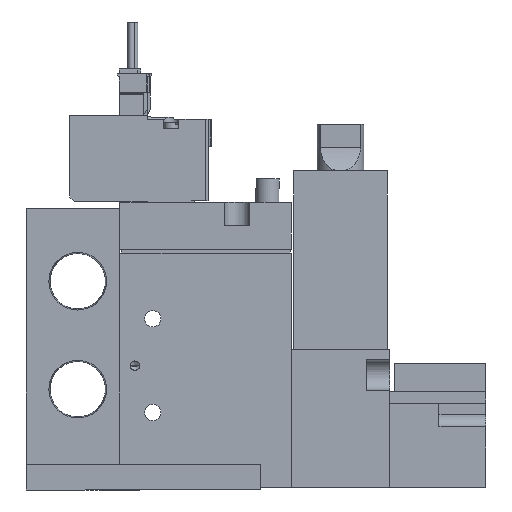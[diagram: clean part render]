
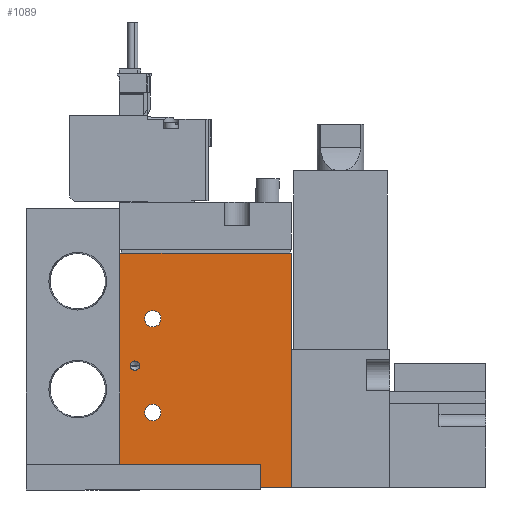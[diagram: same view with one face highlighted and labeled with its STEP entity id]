
A CAD part, left-side view. The second image highlights one B-rep face of the part: STEP entity #1089.
In plain terms, the highlighted planar face has unit normal (-1, 0, 0) as drawn and (1, 0, 0) by its records, which use the part's own axes.
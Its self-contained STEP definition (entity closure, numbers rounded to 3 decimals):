
#1089=ADVANCED_FACE('',(#1712,#1713,#1714,#1715),#1716,.F.);
#1712=FACE_BOUND('',#2669,.T.);
#1713=FACE_BOUND('',#2670,.T.);
#1714=FACE_BOUND('',#2671,.T.);
#1715=FACE_OUTER_BOUND('',#2672,.T.);
#1716=PLANE('',#2673);
#2669=EDGE_LOOP('',(#4142));
#2670=EDGE_LOOP('',(#4143));
#2671=EDGE_LOOP('',(#4144));
#2672=EDGE_LOOP('',(#4145,#4146,#4147,#4148));
#2673=AXIS2_PLACEMENT_3D('',#4149,#4150,#4151);
#4142=ORIENTED_EDGE('',*,*,#6673,.F.);
#4143=ORIENTED_EDGE('',*,*,#6660,.T.);
#4144=ORIENTED_EDGE('',*,*,#6656,.T.);
#4145=ORIENTED_EDGE('',*,*,#6680,.T.);
#4146=ORIENTED_EDGE('',*,*,#6681,.F.);
#4147=ORIENTED_EDGE('',*,*,#6670,.F.);
#4148=ORIENTED_EDGE('',*,*,#6677,.T.);
#4149=CARTESIAN_POINT('',(8.5,-19.444,50.0));
#4150=DIRECTION('',(-1.0,0.0,0.0));
#4151=DIRECTION('',(0.0,0.0,1.0));
#6656=EDGE_CURVE('',#7786,#7786,#7787,.T.);
#6660=EDGE_CURVE('',#7792,#7792,#7793,.T.);
#6670=EDGE_CURVE('',#7810,#7812,#7813,.T.);
#6673=EDGE_CURVE('',#7817,#7817,#7818,.T.);
#6677=EDGE_CURVE('',#7810,#7823,#7825,.T.);
#6680=EDGE_CURVE('',#7823,#7826,#7828,.T.);
#6681=EDGE_CURVE('',#7812,#7826,#7829,.T.);
#7786=VERTEX_POINT('',#9634);
#7787=CIRCLE('',#9635,1.75);
#7792=VERTEX_POINT('',#9640);
#7793=CIRCLE('',#9641,1.75);
#7810=VERTEX_POINT('',#9662);
#7812=VERTEX_POINT('',#9665);
#7813=LINE('',#9666,#9667);
#7817=VERTEX_POINT('',#9672);
#7818=CIRCLE('',#9673,1.0);
#7823=VERTEX_POINT('',#9678);
#7825=LINE('',#9681,#9682);
#7826=VERTEX_POINT('',#9683);
#7828=LINE('',#9686,#9687);
#7829=LINE('',#9688,#9689);
#9634=CARTESIAN_POINT('',(8.5,-10.694,16.0));
#9635=AXIS2_PLACEMENT_3D('',#11865,#11866,#11867);
#9640=CARTESIAN_POINT('',(8.5,-10.694,36.0));
#9641=AXIS2_PLACEMENT_3D('',#11874,#11875,#11876);
#9662=CARTESIAN_POINT('',(8.5,-19.444,50.0));
#9665=CARTESIAN_POINT('',(8.5,17.056,50.0));
#9666=CARTESIAN_POINT('',(8.5,-19.444,50.0));
#9667=VECTOR('',#11894,1.0);
#9672=CARTESIAN_POINT('',(8.5,-17.244,26.0));
#9673=AXIS2_PLACEMENT_3D('',#11899,#11900,#11901);
#9678=CARTESIAN_POINT('',(8.5,-19.444,0.0));
#9681=CARTESIAN_POINT('',(8.5,-19.444,50.0));
#9682=VECTOR('',#11909,1.0);
#9683=CARTESIAN_POINT('',(8.5,17.056,0.0));
#9686=CARTESIAN_POINT('',(8.5,-19.444,0.0));
#9687=VECTOR('',#11911,1.0);
#9688=CARTESIAN_POINT('',(8.5,17.056,50.0));
#9689=VECTOR('',#11912,1.0);
#11865=CARTESIAN_POINT('',(8.5,-12.444,16.0));
#11866=DIRECTION('',(-1.0,0.0,0.0));
#11867=DIRECTION('',(0.0,1.0,0.0));
#11874=CARTESIAN_POINT('',(8.5,-12.444,36.0));
#11875=DIRECTION('',(-1.0,0.0,0.0));
#11876=DIRECTION('',(0.0,1.0,0.0));
#11894=DIRECTION('',(0.0,1.0,0.0));
#11899=CARTESIAN_POINT('',(8.5,-16.244,26.0));
#11900=DIRECTION('',(1.0,0.,0.0));
#11901=DIRECTION('',(0.,-1.0,0.0));
#11909=DIRECTION('',(0.0,0.0,-1.0));
#11911=DIRECTION('',(0.0,1.0,0.0));
#11912=DIRECTION('',(0.0,0.0,-1.0));
